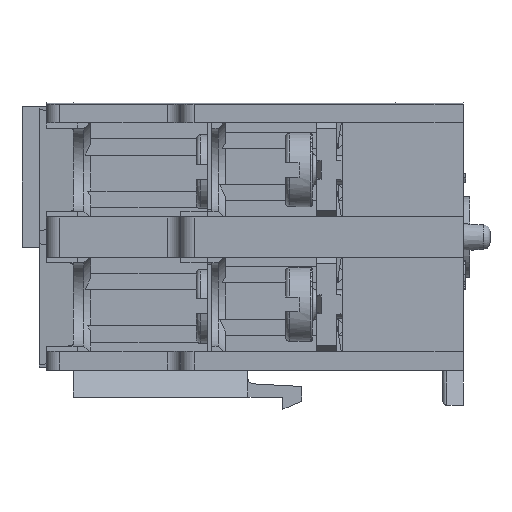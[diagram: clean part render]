
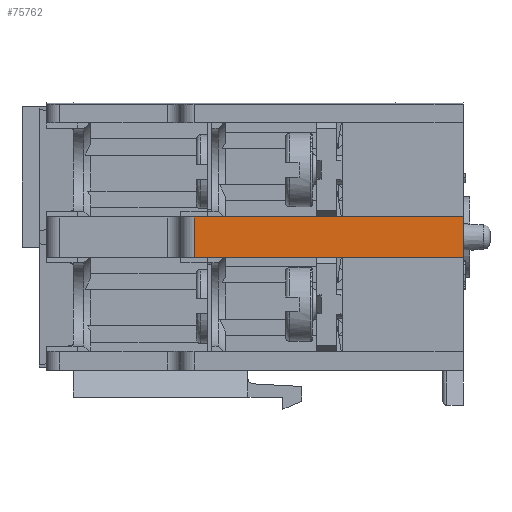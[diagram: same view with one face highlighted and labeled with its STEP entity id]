
A CAD part, left-side view. The second image highlights one B-rep face of the part: STEP entity #75762.
In plain terms, the highlighted planar face has unit normal (-1, 0, 0) as drawn and (1, 0, 0) by its records, which use the part's own axes.
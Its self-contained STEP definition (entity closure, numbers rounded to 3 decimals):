
#181 = EDGE_CURVE ( 'NONE', #86657, #65787, #58189, .T. ) ;
#320 = CARTESIAN_POINT ( 'NONE',  ( 56., 20., 1.5 ) ) ;
#1163 = DIRECTION ( 'NONE',  ( 0., -1., 0. ) ) ;
#4138 = CARTESIAN_POINT ( 'NONE',  ( 56., 0., -1.5 ) ) ;
#7522 = DIRECTION ( 'NONE',  ( 0., 1., 0. ) ) ;
#9536 = CARTESIAN_POINT ( 'NONE',  ( 56., 19., 1.5 ) ) ;
#13096 = ORIENTED_EDGE ( 'NONE', *, *, #181, .T. ) ;
#21815 = EDGE_CURVE ( 'NONE', #26097, #56824, #44818, .T. ) ;
#24504 = CARTESIAN_POINT ( 'NONE',  ( 56., 20., 1.5 ) ) ;
#26097 = VERTEX_POINT ( 'NONE', #320 ) ;
#27036 = DIRECTION ( 'NONE',  ( 1., 0., 0. ) ) ;
#28613 = CARTESIAN_POINT ( 'NONE',  ( 56., 20., -1.5 ) ) ;
#32256 = AXIS2_PLACEMENT_3D ( 'NONE', #96319, #27036, #1163 ) ;
#32339 = VECTOR ( 'NONE', #7522, 1000. ) ;
#43982 = VECTOR ( 'NONE', #50760, 1000. ) ;
#44818 = LINE ( 'NONE', #9536, #67920 ) ;
#46428 = LINE ( 'NONE', #4138, #49139 ) ;
#49139 = VECTOR ( 'NONE', #56267, 1000. ) ;
#50760 = DIRECTION ( 'NONE',  ( 0., 0., 1. ) ) ;
#52481 = EDGE_CURVE ( 'NONE', #65787, #26097, #69838, .T. ) ;
#54729 = EDGE_CURVE ( 'NONE', #56824, #86657, #46428, .T. ) ;
#56267 = DIRECTION ( 'NONE',  ( 0., 0., -1. ) ) ;
#56824 = VERTEX_POINT ( 'NONE', #64717 ) ;
#57675 = ORIENTED_EDGE ( 'NONE', *, *, #52481, .T. ) ;
#58189 = LINE ( 'NONE', #112070, #32339 ) ;
#59603 = ORIENTED_EDGE ( 'NONE', *, *, #54729, .T. ) ;
#64717 = CARTESIAN_POINT ( 'NONE',  ( 56., 0., 1.5 ) ) ;
#65787 = VERTEX_POINT ( 'NONE', #28613 ) ;
#67920 = VECTOR ( 'NONE', #96322, 1000. ) ;
#68808 = EDGE_LOOP ( 'NONE', ( #13096, #57675, #90309, #59603 ) ) ;
#69838 = LINE ( 'NONE', #24504, #43982 ) ;
#75762 = ADVANCED_FACE ( 'NONE', ( #82114 ), #96686, .T. ) ;
#82114 = FACE_OUTER_BOUND ( 'NONE', #68808, .T. ) ;
#86657 = VERTEX_POINT ( 'NONE', #105113 ) ;
#90309 = ORIENTED_EDGE ( 'NONE', *, *, #21815, .T. ) ;
#96319 = CARTESIAN_POINT ( 'NONE',  ( 56., 0., 1.5 ) ) ;
#96322 = DIRECTION ( 'NONE',  ( 0., -1., 0. ) ) ;
#96686 = PLANE ( 'NONE',  #32256 ) ;
#105113 = CARTESIAN_POINT ( 'NONE',  ( 56., 0., -1.5 ) ) ;
#112070 = CARTESIAN_POINT ( 'NONE',  ( 56., 19., -1.5 ) ) ;
